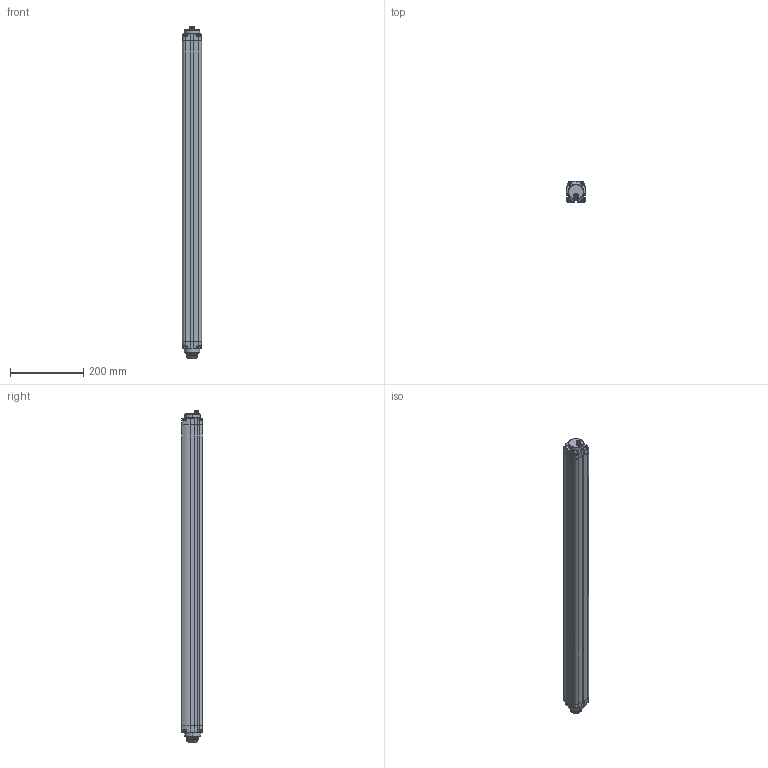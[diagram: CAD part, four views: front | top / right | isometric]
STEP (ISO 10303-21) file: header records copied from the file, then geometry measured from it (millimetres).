
FILE_DESCRIPTION(('STEP AP214'),'1');
FILE_NAME('SGBodyBigBase_080_safetylightcurtains.stp','2017-11-09T11:08:24',('3D-Tool'),(' '),'Spatial InterOp 3D',' ',' ');
FILE_SCHEMA(('AUTOMOTIVE_DESIGN { 1 0 10303 214 1 1 1 1 }'));
Length unit declared in the file: millimetre
Products named in the file (1): 1
Bounding box: 52 x 56.93 x 906.4 mm (x, y, z)
Surface area: 226021.6 mm2 (no closed solid volume)
Topology: 0 solids, 1038 shells, 1038 faces, 5513 edges, 5482 vertices
Faces by surface type: bspline 1038
Entity records: 123156 total; most frequent: CARTESIAN_POINT 63488, ORIENTED_EDGE 5482, EDGE_CURVE 5482, VERTEX_POINT 5482, PRESENTATION_STYLE_ASSIGNMENT 4042, COLOUR_RGB 4042, DIRECTION 3903, B_SPLINE_CURVE_WITH_KNOTS 3584
